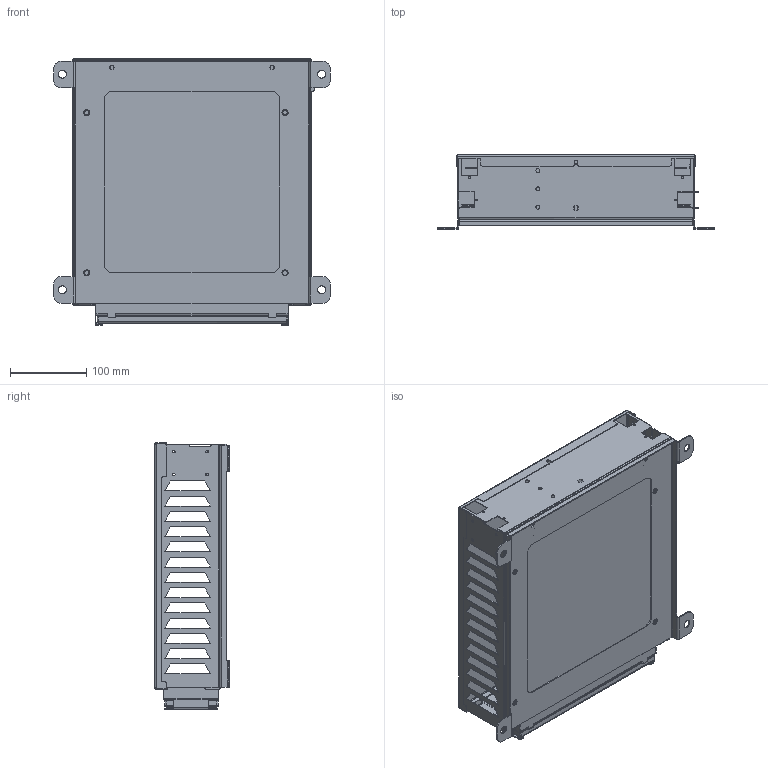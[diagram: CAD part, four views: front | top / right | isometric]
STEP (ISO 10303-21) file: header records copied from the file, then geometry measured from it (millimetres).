
FILE_DESCRIPTION (( 'STEP AP214' ), '1' );
FILE_NAME ('MS-IEM-6.STEP', '2024-05-30T12:14:24', ( '' ), ( '' ), 'SwSTEP 2.0', 'SolidWorks 2023', '' );
FILE_SCHEMA (( 'AUTOMOTIVE_DESIGN' ));
Length unit declared in the file: millimetre
Products named in the file (1): MS-IEM-6
Bounding box: 363 x 97.5 x 349.75 mm (x, y, z)
Volume: 512138.9 mm3; surface area: 805020.1 mm2
Topology: 12 solids, 12 shells, 1160 faces, 3244 edges, 2096 vertices
Faces by surface type: plane 681, cylinder 443, bspline 36
Entity records: 39500 total; most frequent: CARTESIAN_POINT 8593, ORIENTED_EDGE 6488, DIRECTION 6236, EDGE_CURVE 3244, VECTOR 2358, LINE 2358, VERTEX_POINT 2096, AXIS2_PLACEMENT_3D 1939
